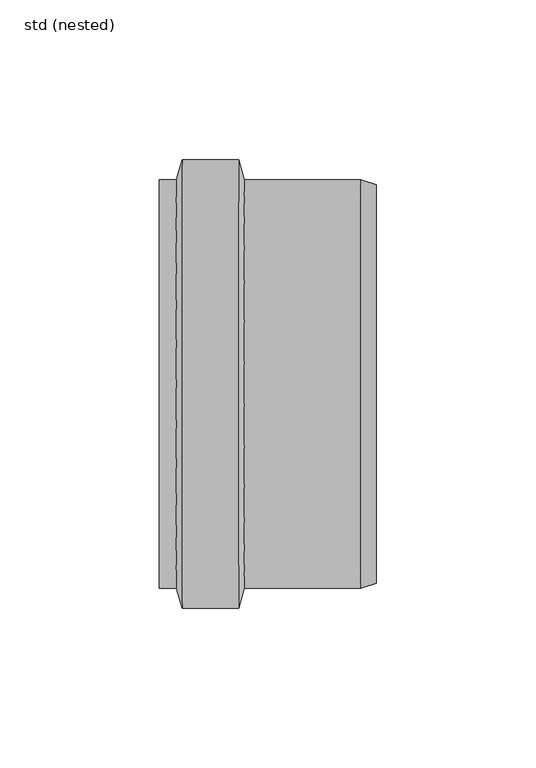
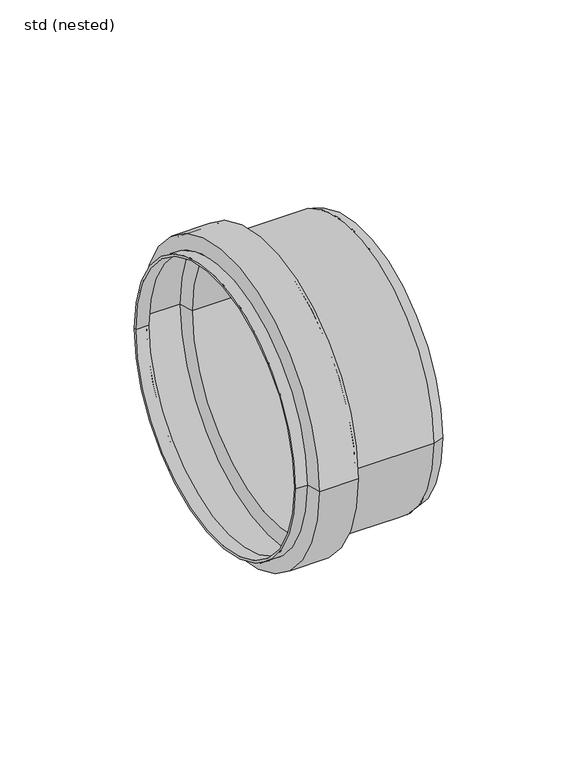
"""IFC4 building model written with IfcOpenShell, lengths in millimetres: pipe fitting geometry, ZZZ_do not use_PIF_ST_UN_ACO pipe socket_ACO : std (nested)."""

from ifc_helpers import new_model, si_unit, frame, origin, place, context, project, spatial, polyline, circle_curve, source, transform, mapped, element, save
from ifc_brep_helpers import plane_surface, cylinder_surface, revolved_surface, advanced_brep


def std_nested_4f3602ba(model_context):
    return source(origin(), model_context, "Body", "AdvancedBrep", [
        advanced_brep(
        [(-55.1, -69.5, 0.0), (-55.1, 69.5, 0.0), (-56.9, 63.0, 0.0), (-56.9, -63.0, 0.0), (-39.0, -69.5, 0.0), (-39.0, 69.5, 0.0), (-37.1, -63.0, 0.0), (-37.1, 63.0, 0.0), (0.0, -63.0, 0.0), (0.0, 63.0, 0.0), (4.6, -61.5, 0.0), (4.6, 61.5, 0.0), (4.9100206, -62.4507298, 0.0), (4.9100206, 62.4507298, 0.0), (0.1589254, -64.0, 0.0), (0.1589254, 64.0, 0.0), (-36.3504614, -64.0, 0.0), (-36.3504614, 64.0, 0.0), (-38.2174196, -70.3869623, 0.0), (-38.2174196, 70.3869623, 0.0), (-55.8920147, -70.3869623, 0.0), (-55.8920147, 70.3869623, 0.0), (-57.6607119, -64.0, 0.0), (-57.6607119, 64.0, 0.0), (-63.0, -64.0, 0.0), (-63.0, 64.0, 0.0), (-63.0, -63.0, 0.0), (-63.0, 63.0, 0.0)],
        [
            (0, 1, circle_curve(frame((-55.1, 0.0, 0.0), z_axis=(1.0, 0.0, 0.0), x_axis=(0.0, 1.0, 0.0)), 69.5)),
            (1, 2),
            (2, 3, circle_curve(frame((-56.9, 0.0, 0.0), z_axis=(-1.0, 0.0, 0.0), x_axis=(0.0, 1.0, 0.0)), 63.0)),
            (3, 0),
            (1, 0, circle_curve(frame((-55.1, 0.0, 0.0), z_axis=(1.0, 0.0, 0.0), x_axis=(0.0, 1.0, 0.0)), 69.5)),
            (3, 2, circle_curve(frame((-56.9, 0.0, 0.0), z_axis=(-1.0, 0.0, 0.0), x_axis=(0.0, 1.0, 0.0)), 63.0)),
            (4, 5, circle_curve(frame((-39.0, 0.0, 0.0), z_axis=(1.0, 0.0, 0.0), x_axis=(0.0, 1.0, 0.0)), 69.5)),
            (5, 1),
            (0, 4),
            (5, 4, circle_curve(frame((-39.0, 0.0, 0.0), z_axis=(1.0, 0.0, 0.0), x_axis=(0.0, 1.0, 0.0)), 69.5)),
            (6, 7, circle_curve(frame((-37.1, 0.0, 0.0), z_axis=(1.0, 0.0, 0.0), x_axis=(0.0, 1.0, 0.0)), 63.0)),
            (7, 5),
            (4, 6),
            (7, 6, circle_curve(frame((-37.1, 0.0, 0.0), z_axis=(1.0, 0.0, 0.0), x_axis=(0.0, 1.0, 0.0)), 63.0)),
            (8, 9, circle_curve(frame((0.0, 0.0, 0.0), z_axis=(1.0, 0.0, 0.0), x_axis=(0.0, 1.0, 0.0)), 63.0)),
            (9, 7),
            (6, 8),
            (9, 8, circle_curve(frame((0.0, 0.0, 0.0), z_axis=(1.0, 0.0, 0.0), x_axis=(0.0, 1.0, 0.0)), 63.0)),
            (10, 11, circle_curve(frame((4.6, 0.0, 0.0), z_axis=(1.0, 0.0, 0.0), x_axis=(0.0, 1.0, 0.0)), 61.5)),
            (11, 9),
            (8, 10),
            (11, 10, circle_curve(frame((4.6, 0.0, 0.0), z_axis=(1.0, 0.0, 0.0), x_axis=(0.0, 1.0, 0.0)), 61.5)),
            (12, 13, circle_curve(frame((4.9100206, 0.0, 0.0), z_axis=(1.0, 0.0, 0.0), x_axis=(0.0, 1.0, 0.0)), 62.4507298)),
            (13, 11),
            (10, 12),
            (13, 12, circle_curve(frame((4.9100206, 0.0, 0.0), z_axis=(1.0, 0.0, 0.0), x_axis=(0.0, 1.0, 0.0)), 62.4507298)),
            (14, 15, circle_curve(frame((0.1589254, 0.0, 0.0), z_axis=(1.0, 0.0, 0.0), x_axis=(0.0, 1.0, 0.0)), 64.0)),
            (15, 13),
            (12, 14),
            (15, 14, circle_curve(frame((0.1589254, 0.0, 0.0), z_axis=(1.0, 0.0, 0.0), x_axis=(0.0, 1.0, 0.0)), 64.0)),
            (16, 17, circle_curve(frame((-36.3504614, 0.0, 0.0), z_axis=(1.0, 0.0, 0.0), x_axis=(0.0, 1.0, 0.0)), 64.0)),
            (17, 15),
            (14, 16),
            (17, 16, circle_curve(frame((-36.3504614, 0.0, 0.0), z_axis=(1.0, 0.0, 0.0), x_axis=(0.0, 1.0, 0.0)), 64.0)),
            (18, 19, circle_curve(frame((-38.2174196, 0.0, 0.0), z_axis=(1.0, 0.0, 0.0), x_axis=(0.0, 1.0, 0.0)), 70.3869623)),
            (19, 17),
            (16, 18),
            (19, 18, circle_curve(frame((-38.2174196, 0.0, 0.0), z_axis=(1.0, 0.0, 0.0), x_axis=(0.0, 1.0, 0.0)), 70.3869623)),
            (20, 21, circle_curve(frame((-55.8920147, 0.0, 0.0), z_axis=(1.0, 0.0, 0.0), x_axis=(0.0, 1.0, 0.0)), 70.3869623)),
            (21, 19),
            (18, 20),
            (21, 20, circle_curve(frame((-55.8920147, 0.0, 0.0), z_axis=(1.0, 0.0, 0.0), x_axis=(0.0, 1.0, 0.0)), 70.3869623)),
            (22, 23, circle_curve(frame((-57.6607119, 0.0, 0.0), z_axis=(1.0, 0.0, 0.0), x_axis=(0.0, 1.0, 0.0)), 64.0)),
            (23, 21),
            (20, 22),
            (23, 22, circle_curve(frame((-57.6607119, 0.0, 0.0), z_axis=(1.0, 0.0, 0.0), x_axis=(0.0, 1.0, 0.0)), 64.0)),
            (24, 25, circle_curve(frame((-63.0, 0.0, 0.0), z_axis=(1.0, 0.0, 0.0), x_axis=(0.0, 1.0, 0.0)), 64.0)),
            (25, 23),
            (22, 24),
            (25, 24, circle_curve(frame((-63.0, 0.0, 0.0), z_axis=(1.0, 0.0, 0.0), x_axis=(0.0, 1.0, 0.0)), 64.0)),
            (26, 27, circle_curve(frame((-63.0, 0.0, 0.0), z_axis=(1.0, 0.0, 0.0), x_axis=(0.0, 1.0, 0.0)), 63.0)),
            (27, 25),
            (24, 26),
            (27, 26, circle_curve(frame((-63.0, 0.0, 0.0), z_axis=(1.0, 0.0, 0.0), x_axis=(0.0, 1.0, 0.0)), 63.0)),
            (2, 27),
            (26, 3),
        ],
        [
            revolved_surface(polyline([(-56.9, 63.0, 0.0), (-55.1, 69.5, 0.0)]), (-60.2050583, 0.0, 0.0), (-1.0, 0.0, 0.0)),
            revolved_surface(polyline([(-55.1, 69.5, 0.0), (-39.0, 69.5, 0.0)]), (-60.2050583, 0.0, 0.0), (-1.0, 0.0, 0.0)),
            revolved_surface(polyline([(-39.0, 69.5, 0.0), (-37.1, 63.0, 0.0)]), (-60.2050583, 0.0, 0.0), (-1.0, 0.0, 0.0)),
            revolved_surface(polyline([(-37.1, 63.0, 0.0), (0.0, 63.0, 0.0)]), (-60.2050583, 0.0, 0.0), (-1.0, 0.0, 0.0)),
            revolved_surface(polyline([(0.0, 63.0, 0.0), (4.6, 61.5, 0.0)]), (-60.2050583, 0.0, 0.0), (-1.0, 0.0, 0.0)),
            revolved_surface(polyline([(4.6, 61.5, 0.0), (4.9100206, 62.4507298, 0.0)]), (-60.2050583, 0.0, 0.0), (-1.0, 0.0, 0.0)),
            revolved_surface(polyline([(4.9100206, 62.4507298, 0.0), (0.1589254, 64.0, 0.0)]), (-60.2050583, 0.0, 0.0), (-1.0, 0.0, 0.0)),
            cylinder_surface(frame((-60.2050583, 0.0, 0.0), z_axis=(-1.0, 0.0, 0.0), x_axis=(0.0, 1.0, 0.0)), 64.0),
            revolved_surface(polyline([(-36.3504614, 64.0, 0.0), (-38.2174196, 70.3869623, 0.0)]), (-60.2050583, 0.0, 0.0), (-1.0, 0.0, 0.0)),
            cylinder_surface(frame((-60.2050583, 0.0, 0.0), z_axis=(-1.0, 0.0, 0.0), x_axis=(0.0, 1.0, 0.0)), 70.3869623),
            revolved_surface(polyline([(-55.8920147, 70.3869623, 0.0), (-57.6607119, 64.0, 0.0)]), (-60.2050583, 0.0, 0.0), (-1.0, 0.0, 0.0)),
            plane_surface(frame((-63.0, 0.0, 0.0), z_axis=(-1.0, 0.0, 0.0), x_axis=(0.0, 1.0, 0.0))),
            revolved_surface(polyline([(-63.0, 63.0, 0.0), (-56.9, 63.0, 0.0)]), (-60.2050583, 0.0, 0.0), (-1.0, 0.0, 0.0)),
        ],
        [
            (0, [[1, 2, 3, 4]]),
            (0, [[5, -4, 6, -2]]),
            (1, [[7, 8, -1, 9]]),
            (1, [[10, -9, -5, -8]]),
            (2, [[11, 12, -7, 13]]),
            (2, [[14, -13, -10, -12]]),
            (3, [[15, 16, -11, 17]]),
            (3, [[18, -17, -14, -16]]),
            (4, [[19, 20, -15, 21]]),
            (4, [[22, -21, -18, -20]]),
            (5, [[23, 24, -19, 25]]),
            (5, [[26, -25, -22, -24]]),
            (6, [[27, 28, -23, 29]]),
            (6, [[30, -29, -26, -28]]),
            (7, [[31, 32, -27, 33]]),
            (7, [[34, -33, -30, -32]]),
            (8, [[35, 36, -31, 37]]),
            (8, [[38, -37, -34, -36]]),
            (9, [[39, 40, -35, 41]]),
            (9, [[42, -41, -38, -40]]),
            (10, [[43, 44, -39, 45]]),
            (10, [[46, -45, -42, -44]]),
            (7, [[47, 48, -43, 49]]),
            (7, [[50, -49, -46, -48]]),
            (11, [[51, 52, -47, 53]]),
            (11, [[54, -53, -50, -52]]),
            (12, [[-3, 55, -51, 56]]),
            (12, [[-6, -56, -54, -55]]),
        ],
    ),
    ])


if __name__ == "__main__":
    model = new_model("IFC4")
    model_context = context("Model", 3, world=origin())
    ifc_project = project(units=[si_unit("LENGTHUNIT", "METRE", prefix="MILLI")], contexts=[model_context])
    site = spatial("IfcSite", under=ifc_project)
    building = spatial("IfcBuilding", under=site)
    placement = place(None, origin())
    std_nested_shape = std_nested_4f3602ba(model_context)
    element("IfcPipeFitting", 1, ObjectType="ZZZ_do not use_PIF_ST_UN_ACO pipe socket_ACO : std (nested)", at=placement, inside=building, context=model_context, shape_type="MappedRepresentation", body=[
        mapped(std_nested_shape, transform((0.0, 0.0, 0.0), x_axis=(1.0, 0.0, 0.0), y_axis=(0.0, 1.0, 0.0), z_axis=(0.0, 0.0, 1.0))),
    ])
    save(model, "model.ifc")
